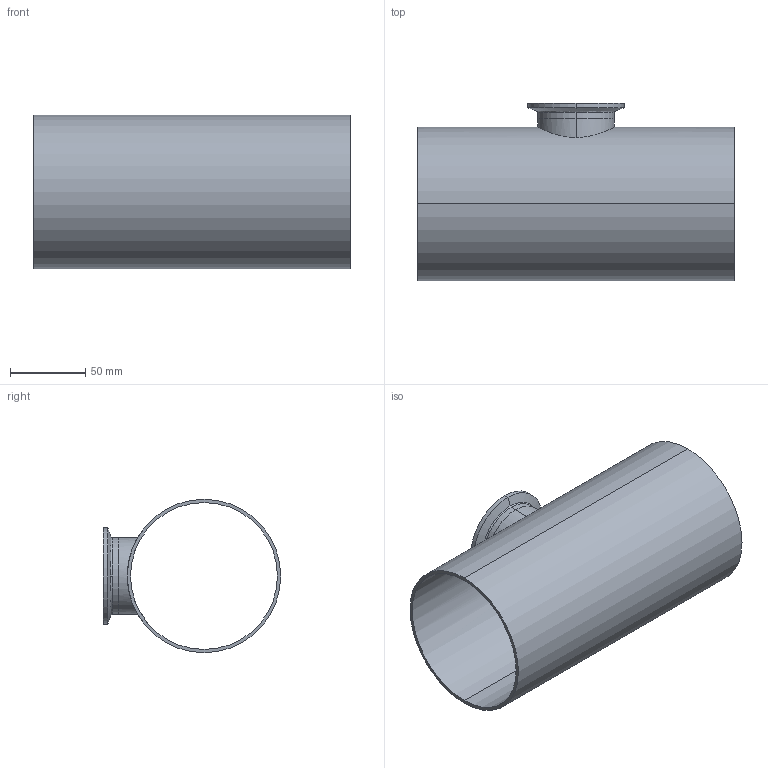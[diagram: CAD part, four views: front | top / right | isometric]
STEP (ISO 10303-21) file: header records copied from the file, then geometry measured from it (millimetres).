
FILE_DESCRIPTION (( 'STEP AP214' ), '1' );
FILE_NAME ('TE7RWWCS6L4.0x2.0-...STEP', '2016-05-23T12:30:23', ( 'eran' ), ( '' ), 'SwSTEP 2.0', 'SolidWorks 2016', '' );
FILE_SCHEMA (( 'AUTOMOTIVE_DESIGN' ));
Length unit declared in the file: millimetre
Products named in the file (1): TE7RWWCS6L4.0x2.0-..
Bounding box: 209.6 x 117.5 x 101.6 mm (x, y, z)
Volume: 143706 mm3; surface area: 137606.2 mm2
Topology: 2 solids, 2 shells, 36 faces, 88 edges, 58 vertices
Faces by surface type: cylinder 14, bspline 10, plane 6, cone 6
Entity records: 2076 total; most frequent: CARTESIAN_POINT 1171, DIRECTION 190, ORIENTED_EDGE 176, EDGE_CURVE 88, AXIS2_PLACEMENT_3D 85, CIRCLE 58, VERTEX_POINT 58, EDGE_LOOP 44
